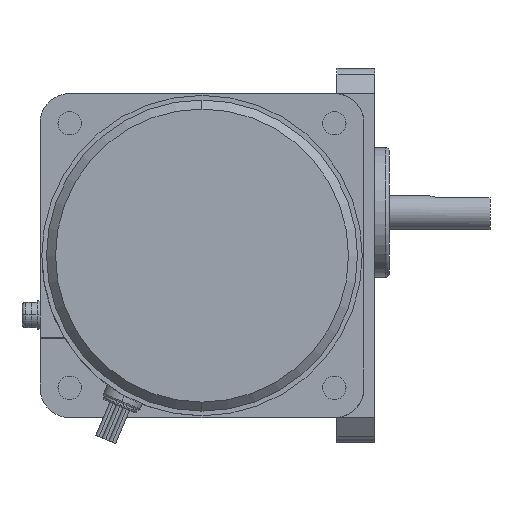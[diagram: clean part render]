
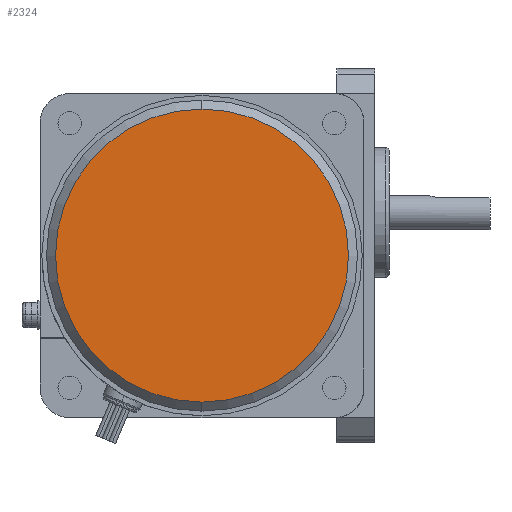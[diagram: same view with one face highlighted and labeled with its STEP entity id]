
A CAD part, left-side view. The second image highlights one B-rep face of the part: STEP entity #2324.
In plain terms, the highlighted planar face has unit normal (-1, 0, 0).
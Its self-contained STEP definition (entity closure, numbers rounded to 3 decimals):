
#2304=CARTESIAN_POINT('POINT640005',(-173.,48.,28.7));
#2305=VERTEX_POINT('VERTEX640005',#2304);
#2306=CARTESIAN_POINT('POINT640006',(-173.,48.,-52.7));
#2307=VERTEX_POINT('VERTEX640006',#2306);
#2308=CARTESIAN_POINT('POS1054630',(-173.,48.,-12.));
#2309=DIRECTION('DIR1555131',(1.,0.,0.));
#2310=DIRECTION('DIR1555132',(0.,0.,1.));
#2311=AXIS2_PLACEMENT_3D('AXIS500502',#2308,#2309,#2310);
#2312=CIRCLE('ELLIPSE216658',#2311,40.7);
#2313=EDGE_CURVE('EDGE987145',#2305,#2307,#2312,.T.);
#2314=ORIENTED_EDGE('COEDGE1974835',*,*,#2313,.F.);
#2315=EDGE_CURVE('EDGE987146',#2307,#2305,#2312,.T.);
#2316=ORIENTED_EDGE('COEDGE1974836',*,*,#2315,.F.);
#2317=EDGE_LOOP('NONE',(#2314,#2316));
#2318=FACE_BOUND('LOOP1',#2317,.T.);
#2319=CARTESIAN_POINT('POS1054631',(-173.,48.,
   8.35));
#2320=DIRECTION('DIR1555133',(-1.,0.,0.));
#2321=DIRECTION('DIR1555134',(0.,1.,0.));
#2322=AXIS2_PLACEMENT_3D('AXIS500503',#2319,#2320,#2321);
#2323=PLANE('PLANE187348',#2322);
#2324=ADVANCED_FACE('FACE393308',(#2318),#2323,.T.);
